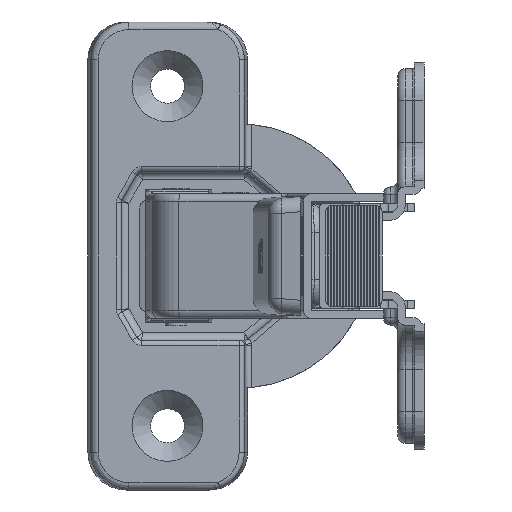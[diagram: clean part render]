
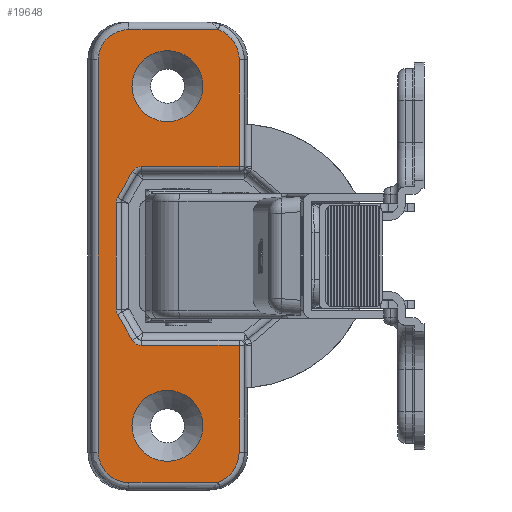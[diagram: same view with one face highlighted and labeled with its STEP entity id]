
A CAD part, left-side view. The second image highlights one B-rep face of the part: STEP entity #19648.
In plain terms, the highlighted planar face has unit normal (-1, 0, 0) as drawn and (0.276, 0.961, 0) by its records, which use the part's own axes.
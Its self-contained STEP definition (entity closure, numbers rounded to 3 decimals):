
#298=ELLIPSE('',#21358,4.362,4.3);
#299=ELLIPSE('',#21360,4.362,4.3);
#302=ELLIPSE('',#21367,4.059,4.);
#304=ELLIPSE('',#21372,4.059,4.);
#822=FACE_BOUND('',#6074,.T.);
#823=FACE_BOUND('',#6075,.T.);
#1797=LINE('',#33327,#3315);
#1800=LINE('',#33366,#3318);
#1802=LINE('',#33399,#3320);
#1803=LINE('',#33402,#3321);
#1804=LINE('',#33404,#3322);
#1805=LINE('',#33408,#3323);
#1806=LINE('',#33412,#3324);
#1807=LINE('',#33416,#3325);
#1808=LINE('',#33420,#3326);
#1809=LINE('',#33421,#3327);
#3315=VECTOR('',#25554,11.837);
#3318=VECTOR('',#25569,52.);
#3320=VECTOR('',#25579,11.837);
#3321=VECTOR('',#25582,14.15);
#3322=VECTOR('',#25583,12.944);
#3323=VECTOR('',#25586,3.912);
#3324=VECTOR('',#25589,14.125);
#3325=VECTOR('',#25592,3.912);
#3326=VECTOR('',#25595,12.944);
#3327=VECTOR('',#25596,14.15);
#4145=PLANE('',#21374);
#4954=FACE_OUTER_BOUND('',#6073,.T.);
#6073=EDGE_LOOP('',(#15652,#15653,#15654,#15655,#15656,#15657,#15658,#15659,
#15660,#15661,#15662,#15663,#15664,#15665,#15666,#15667,#15668,#15669));
#6074=EDGE_LOOP('',(#15670));
#6075=EDGE_LOOP('',(#15671));
#7211=CIRCLE('',#21375,1.4);
#7212=CIRCLE('',#21376,1.4);
#7213=CIRCLE('',#21377,1.4);
#7214=CIRCLE('',#21378,1.4);
#7215=CIRCLE('',#21379,4.7);
#7216=CIRCLE('',#21380,4.7);
#8837=VERTEX_POINT('',#33186);
#8840=VERTEX_POINT('',#33191);
#8843=VERTEX_POINT('',#33269);
#8844=VERTEX_POINT('',#33271);
#8847=VERTEX_POINT('',#33326);
#8849=VERTEX_POINT('',#33356);
#8851=VERTEX_POINT('',#33362);
#8853=VERTEX_POINT('',#33392);
#8855=VERTEX_POINT('',#33401);
#8856=VERTEX_POINT('',#33403);
#8857=VERTEX_POINT('',#33405);
#8858=VERTEX_POINT('',#33407);
#8859=VERTEX_POINT('',#33409);
#8860=VERTEX_POINT('',#33411);
#8861=VERTEX_POINT('',#33413);
#8862=VERTEX_POINT('',#33415);
#8863=VERTEX_POINT('',#33417);
#8864=VERTEX_POINT('',#33419);
#8865=VERTEX_POINT('',#33422);
#8866=VERTEX_POINT('',#33424);
#11226=EDGE_CURVE('',#8840,#8837,#298,.T.);
#11230=EDGE_CURVE('',#8843,#8844,#299,.T.);
#11235=EDGE_CURVE('',#8844,#8847,#1797,.T.);
#11240=EDGE_CURVE('',#8847,#8849,#302,.T.);
#11243=EDGE_CURVE('',#8849,#8851,#1800,.T.);
#11246=EDGE_CURVE('',#8851,#8853,#304,.T.);
#11248=EDGE_CURVE('',#8853,#8840,#1802,.T.);
#11249=EDGE_CURVE('',#8855,#8843,#1803,.T.);
#11250=EDGE_CURVE('',#8856,#8855,#1804,.T.);
#11251=EDGE_CURVE('',#8857,#8856,#7211,.T.);
#11252=EDGE_CURVE('',#8858,#8857,#1805,.T.);
#11253=EDGE_CURVE('',#8859,#8858,#7212,.T.);
#11254=EDGE_CURVE('',#8860,#8859,#1806,.T.);
#11255=EDGE_CURVE('',#8861,#8860,#7213,.T.);
#11256=EDGE_CURVE('',#8862,#8861,#1807,.T.);
#11257=EDGE_CURVE('',#8863,#8862,#7214,.T.);
#11258=EDGE_CURVE('',#8864,#8863,#1808,.T.);
#11259=EDGE_CURVE('',#8837,#8864,#1809,.T.);
#11260=EDGE_CURVE('',#8865,#8865,#7215,.T.);
#11261=EDGE_CURVE('',#8866,#8866,#7216,.T.);
#15652=ORIENTED_EDGE('',*,*,#11226,.F.);
#15653=ORIENTED_EDGE('',*,*,#11248,.F.);
#15654=ORIENTED_EDGE('',*,*,#11246,.F.);
#15655=ORIENTED_EDGE('',*,*,#11243,.F.);
#15656=ORIENTED_EDGE('',*,*,#11240,.F.);
#15657=ORIENTED_EDGE('',*,*,#11235,.F.);
#15658=ORIENTED_EDGE('',*,*,#11230,.F.);
#15659=ORIENTED_EDGE('',*,*,#11249,.F.);
#15660=ORIENTED_EDGE('',*,*,#11250,.F.);
#15661=ORIENTED_EDGE('',*,*,#11251,.F.);
#15662=ORIENTED_EDGE('',*,*,#11252,.F.);
#15663=ORIENTED_EDGE('',*,*,#11253,.F.);
#15664=ORIENTED_EDGE('',*,*,#11254,.F.);
#15665=ORIENTED_EDGE('',*,*,#11255,.F.);
#15666=ORIENTED_EDGE('',*,*,#11256,.F.);
#15667=ORIENTED_EDGE('',*,*,#11257,.F.);
#15668=ORIENTED_EDGE('',*,*,#11258,.F.);
#15669=ORIENTED_EDGE('',*,*,#11259,.F.);
#15670=ORIENTED_EDGE('',*,*,#11260,.T.);
#15671=ORIENTED_EDGE('',*,*,#11261,.T.);
#19648=ADVANCED_FACE('',(#4954,#822,#823),#4145,.T.);
#21358=AXIS2_PLACEMENT_3D('',#33193,#25542,#25543);
#21360=AXIS2_PLACEMENT_3D('',#33272,#25546,#25547);
#21367=AXIS2_PLACEMENT_3D('',#33360,#25562,#25563);
#21372=AXIS2_PLACEMENT_3D('',#33396,#25574,#25575);
#21374=AXIS2_PLACEMENT_3D('',#33400,#25580,#25581);
#21375=AXIS2_PLACEMENT_3D('',#33406,#25584,#25585);
#21376=AXIS2_PLACEMENT_3D('',#33410,#25587,#25588);
#21377=AXIS2_PLACEMENT_3D('',#33414,#25590,#25591);
#21378=AXIS2_PLACEMENT_3D('',#33418,#25593,#25594);
#21379=AXIS2_PLACEMENT_3D('',#33423,#25597,#25598);
#21380=AXIS2_PLACEMENT_3D('',#33425,#25599,#25600);
#25542=DIRECTION('center_axis',(-0.276,-0.961,0.));
#25543=DIRECTION('ref_axis',(-0.961,0.276,0.));
#25546=DIRECTION('center_axis',(-0.276,-0.961,0.));
#25547=DIRECTION('ref_axis',(-0.961,0.276,0.));
#25554=DIRECTION('',(0.961,-0.276,0.));
#25562=DIRECTION('center_axis',(-0.276,-0.961,0.));
#25563=DIRECTION('ref_axis',(0.961,-0.276,0.));
#25569=DIRECTION('',(0.,0.,1.));
#25574=DIRECTION('center_axis',(-0.276,-0.961,0.));
#25575=DIRECTION('ref_axis',(0.961,-0.276,0.));
#25579=DIRECTION('',(-0.961,0.276,0.));
#25580=DIRECTION('center_axis',(0.276,0.961,0.));
#25581=DIRECTION('ref_axis',(-0.961,0.276,0.));
#25582=DIRECTION('',(0.,0.,-1.));
#25583=DIRECTION('',(-0.961,0.276,0.));
#25584=DIRECTION('center_axis',(0.276,0.961,0.));
#25585=DIRECTION('ref_axis',(0.481,-0.138,-0.866));
#25586=DIRECTION('',(-0.481,0.138,-0.866));
#25587=DIRECTION('center_axis',(0.276,0.961,0.));
#25588=DIRECTION('ref_axis',(0.928,-0.266,-0.259));
#25589=DIRECTION('',(0.,0.,-1.));
#25590=DIRECTION('center_axis',(0.276,0.961,0.));
#25591=DIRECTION('ref_axis',(0.928,-0.266,0.259));
#25592=DIRECTION('',(0.481,-0.138,-0.866));
#25593=DIRECTION('center_axis',(0.276,0.961,0.));
#25594=DIRECTION('ref_axis',(0.481,-0.138,0.866));
#25595=DIRECTION('',(0.961,-0.276,0.));
#25596=DIRECTION('',(0.,0.,-1.));
#25597=DIRECTION('center_axis',(-0.276,-0.961,0.));
#25598=DIRECTION('ref_axis',(0.961,-0.276,0.));
#25599=DIRECTION('center_axis',(-0.276,-0.961,0.));
#25600=DIRECTION('ref_axis',(0.961,-0.276,0.));
#33186=CARTESIAN_POINT('',(14.593,1.462,26.));
#33191=CARTESIAN_POINT('',(17.247,0.7,30.));
#33193=CARTESIAN_POINT('Origin',(18.786,0.259,26.));
#33269=CARTESIAN_POINT('',(14.593,1.462,-26.));
#33271=CARTESIAN_POINT('',(17.247,0.7,-30.));
#33272=CARTESIAN_POINT('Origin',(18.786,0.259,-26.));
#33326=CARTESIAN_POINT('',(28.626,-2.563,-30.));
#33327=CARTESIAN_POINT('',(24.216,-1.298,-30.));
#33356=CARTESIAN_POINT('',(32.527,-3.682,-26.));
#33360=CARTESIAN_POINT('Origin',(28.626,-2.563,-26.));
#33362=CARTESIAN_POINT('',(32.527,-3.682,26.));
#33366=CARTESIAN_POINT('',(32.527,-3.682,0.));
#33392=CARTESIAN_POINT('',(28.626,-2.563,30.));
#33396=CARTESIAN_POINT('Origin',(28.626,-2.563,26.));
#33399=CARTESIAN_POINT('',(24.216,-1.298,30.));
#33400=CARTESIAN_POINT('Origin',(33.337,-3.914,0.));
#33401=CARTESIAN_POINT('',(14.593,1.462,-11.85));
#33402=CARTESIAN_POINT('',(14.593,1.462,0.));
#33403=CARTESIAN_POINT('',(27.035,-2.107,-11.85));
#33404=CARTESIAN_POINT('',(23.484,-1.089,-11.85));
#33405=CARTESIAN_POINT('',(28.201,-2.441,-11.15));
#33406=CARTESIAN_POINT('Origin',(27.035,-2.107,-10.45));
#33407=CARTESIAN_POINT('',(30.081,-2.98,-7.762));
#33408=CARTESIAN_POINT('',(31.066,-3.263,-5.987));
#33409=CARTESIAN_POINT('',(30.261,-3.032,-7.062));
#33410=CARTESIAN_POINT('Origin',(28.915,-2.646,-7.062));
#33411=CARTESIAN_POINT('',(30.261,-3.032,7.062));
#33412=CARTESIAN_POINT('',(30.261,-3.032,-3.625));
#33413=CARTESIAN_POINT('',(30.081,-2.98,7.762));
#33414=CARTESIAN_POINT('Origin',(28.915,-2.646,7.062));
#33415=CARTESIAN_POINT('',(28.201,-2.441,11.15));
#33416=CARTESIAN_POINT('',(32.148,-3.573,4.037));
#33417=CARTESIAN_POINT('',(27.035,-2.107,11.85));
#33418=CARTESIAN_POINT('Origin',(27.035,-2.107,10.45));
#33419=CARTESIAN_POINT('',(14.593,1.462,11.85));
#33420=CARTESIAN_POINT('',(30.38,-3.066,11.85));
#33421=CARTESIAN_POINT('',(14.593,1.462,0.));
#33422=CARTESIAN_POINT('',(28.243,-2.453,-22.5));
#33423=CARTESIAN_POINT('Origin',(23.725,-1.157,-22.5));
#33424=CARTESIAN_POINT('',(28.243,-2.453,22.5));
#33425=CARTESIAN_POINT('Origin',(23.725,-1.157,22.5));
